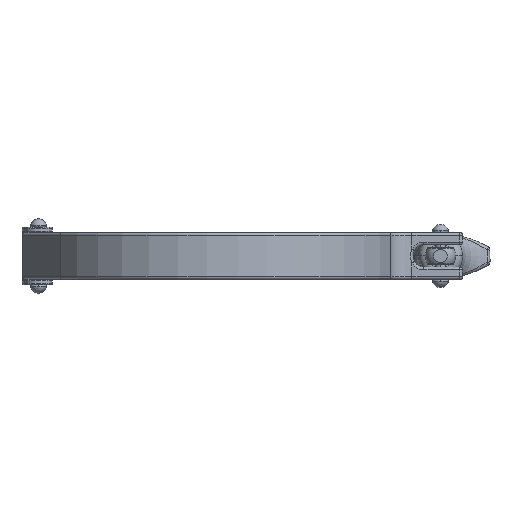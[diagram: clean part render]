
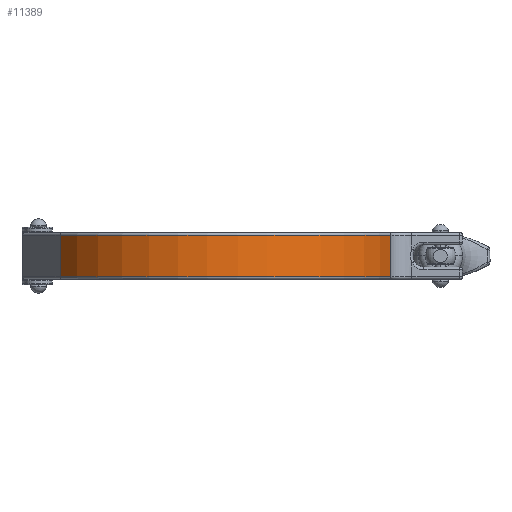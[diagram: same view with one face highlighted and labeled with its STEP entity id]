
A CAD part, front view. The second image highlights one B-rep face of the part: STEP entity #11389.
In plain terms, the highlighted cylindrical face has radius 66 mm (diameter 132 mm), a partial arc.
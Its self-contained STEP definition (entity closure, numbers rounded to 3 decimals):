
#893 = EDGE_LOOP ( 'NONE', ( #919, #2890, #1218, #970 ) ) ;
#919 = ORIENTED_EDGE ( 'NONE', *, *, #3227, .F. ) ;
#970 = ORIENTED_EDGE ( 'NONE', *, *, #2204, .T. ) ;
#1218 = ORIENTED_EDGE ( 'NONE', *, *, #11642, .T. ) ;
#1540 = VERTEX_POINT ( 'NONE', #8009 ) ;
#1660 = FACE_OUTER_BOUND ( 'NONE', #893, .T. ) ;
#1683 = CIRCLE ( 'NONE', #10106, 66. ) ;
#2009 = VECTOR ( 'NONE', #7312, 1000. ) ;
#2204 = EDGE_CURVE ( 'NONE', #1540, #7264, #11054, .T. ) ;
#2535 = DIRECTION ( 'NONE',  ( 1., 0., 0. ) ) ;
#2640 = DIRECTION ( 'NONE',  ( 0., 0., -1. ) ) ;
#2890 = ORIENTED_EDGE ( 'NONE', *, *, #9622, .T. ) ;
#3030 = VERTEX_POINT ( 'NONE', #4007 ) ;
#3227 = EDGE_CURVE ( 'NONE', #3677, #7264, #10099, .T. ) ;
#3249 = DIRECTION ( 'NONE',  ( 1., 0., 0. ) ) ;
#3401 = VECTOR ( 'NONE', #7181, 1000. ) ;
#3444 = CARTESIAN_POINT ( 'NONE',  ( 63.016, 50.378, 8.5 ) ) ;
#3677 = VERTEX_POINT ( 'NONE', #7133 ) ;
#4007 = CARTESIAN_POINT ( 'NONE',  ( -57.158, 37., 7.5 ) ) ;
#4023 = LINE ( 'NONE', #5203, #3401 ) ;
#5203 = CARTESIAN_POINT ( 'NONE',  ( -57.158, 37., 8.5 ) ) ;
#6225 = CARTESIAN_POINT ( 'NONE',  ( 63.016, 50.378, -7.5 ) ) ;
#6352 = DIRECTION ( 'NONE',  ( 0., 0., 1. ) ) ;
#6953 = CYLINDRICAL_SURFACE ( 'NONE', #12878, 66. ) ;
#7133 = CARTESIAN_POINT ( 'NONE',  ( 63.016, 50.378, 7.5 ) ) ;
#7174 = CARTESIAN_POINT ( 'NONE',  ( 0., 70., -7.5 ) ) ;
#7181 = DIRECTION ( 'NONE',  ( 0., 0., -1. ) ) ;
#7264 = VERTEX_POINT ( 'NONE', #6225 ) ;
#7312 = DIRECTION ( 'NONE',  ( 0., 0., -1. ) ) ;
#7321 = AXIS2_PLACEMENT_3D ( 'NONE', #7174, #6352, #3249 ) ;
#8009 = CARTESIAN_POINT ( 'NONE',  ( -57.158, 37., -7.5 ) ) ;
#8497 = CARTESIAN_POINT ( 'NONE',  ( 0., 70., 8.5 ) ) ;
#9485 = DIRECTION ( 'NONE',  ( 0., 0., -1. ) ) ;
#9582 = DIRECTION ( 'NONE',  ( 1., 0., 0. ) ) ;
#9622 = EDGE_CURVE ( 'NONE', #3677, #3030, #1683, .T. ) ;
#9717 = CARTESIAN_POINT ( 'NONE',  ( 0., 70., 7.5 ) ) ;
#10099 = LINE ( 'NONE', #3444, #2009 ) ;
#10106 = AXIS2_PLACEMENT_3D ( 'NONE', #9717, #2640, #9582 ) ;
#11054 = CIRCLE ( 'NONE', #7321, 66. ) ;
#11389 = ADVANCED_FACE ( 'NONE', ( #1660 ), #6953, .T. ) ;
#11642 = EDGE_CURVE ( 'NONE', #3030, #1540, #4023, .T. ) ;
#12878 = AXIS2_PLACEMENT_3D ( 'NONE', #8497, #9485, #2535 ) ;
